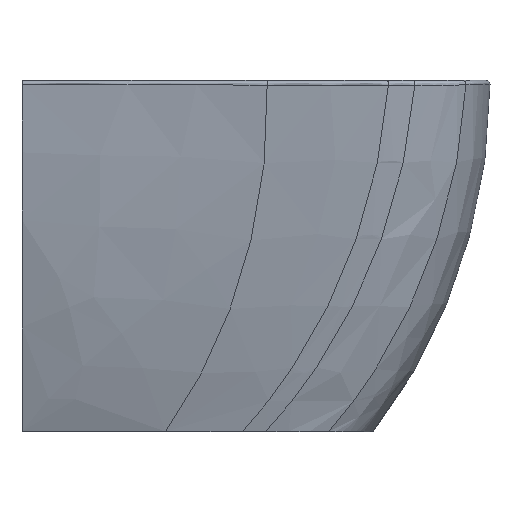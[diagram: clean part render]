
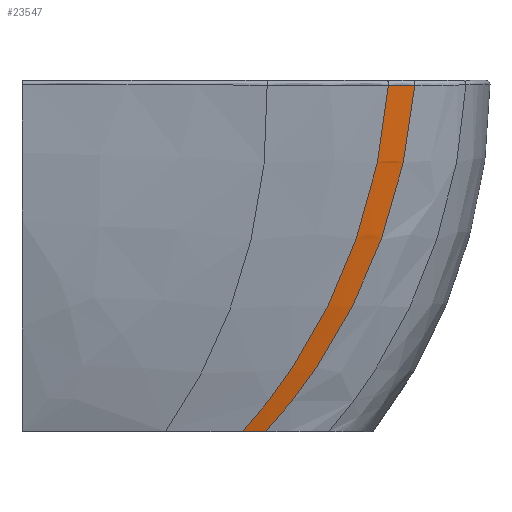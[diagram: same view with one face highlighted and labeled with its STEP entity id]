
A CAD part, left-side view. The second image highlights one B-rep face of the part: STEP entity #23547.
In plain terms, the highlighted free-form (B-spline) face has degree [5, 5] with [6, 6] control points.
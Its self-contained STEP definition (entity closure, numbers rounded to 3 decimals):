
#1465=CARTESIAN_POINT('Vertex',(-112.041,-291.187,-420.)) ;
#1469=CARTESIAN_POINT('Control Point',(-112.041,-291.187,-420.)) ;
#1470=CARTESIAN_POINT('Control Point',(-112.586,-285.648,-420.)) ;
#1471=CARTESIAN_POINT('Control Point',(-113.045,-280.112,-420.)) ;
#1472=CARTESIAN_POINT('Control Point',(-113.444,-274.584,-420.)) ;
#1473=CARTESIAN_POINT('Control Point',(-113.805,-269.06,-420.)) ;
#1474=CARTESIAN_POINT('Control Point',(-114.137,-263.534,-420.)) ;
#1475=CARTESIAN_POINT('Vertex',(-114.137,-263.534,-420.)) ;
#1605=CARTESIAN_POINT('Control Point',(-189.106,-438.005,-5.726)) ;
#1606=CARTESIAN_POINT('Control Point',(-176.886,-431.526,-96.143)) ;
#1607=CARTESIAN_POINT('Control Point',(-163.072,-409.88,-186.381)) ;
#1608=CARTESIAN_POINT('Control Point',(-147.679,-373.138,-276.153)) ;
#1609=CARTESIAN_POINT('Control Point',(-131.367,-324.357,-354.026)) ;
#1610=CARTESIAN_POINT('Control Point',(-114.137,-263.534,-420.)) ;
#1611=CARTESIAN_POINT('Vertex',(-189.106,-438.005,-5.726)) ;
#13839=CARTESIAN_POINT('Control Point',(-189.106,-438.005,-5.726)) ;
#13840=CARTESIAN_POINT('Control Point',(-189.017,-438.446,-5.726)) ;
#13841=CARTESIAN_POINT('Control Point',(-188.926,-438.89,-5.726)) ;
#13842=CARTESIAN_POINT('Control Point',(-188.832,-439.34,-5.727)) ;
#13843=CARTESIAN_POINT('Control Point',(-187.485,-445.711,-5.73)) ;
#13844=CARTESIAN_POINT('Control Point',(-185.913,-451.961,-5.731)) ;
#13845=CARTESIAN_POINT('Control Point',(-184.259,-457.677,-5.729)) ;
#13846=CARTESIAN_POINT('Control Point',(-182.39,-463.473,-5.725)) ;
#13847=CARTESIAN_POINT('Control Point',(-180.354,-469.169,-5.72)) ;
#13848=CARTESIAN_POINT('Control Point',(-180.287,-469.358,-5.72)) ;
#13849=CARTESIAN_POINT('Control Point',(-180.229,-469.518,-5.719)) ;
#13850=CARTESIAN_POINT('Control Point',(-180.171,-469.678,-5.719)) ;
#13851=CARTESIAN_POINT('Vertex',(-180.171,-469.678,-5.719)) ;
#23497=CARTESIAN_POINT('Control Point',(-114.137,-263.534,-420.)) ;
#23498=CARTESIAN_POINT('Control Point',(-131.585,-325.127,-353.191)) ;
#23499=CARTESIAN_POINT('Control Point',(-148.092,-374.372,-274.178)) ;
#23500=CARTESIAN_POINT('Control Point',(-163.656,-411.27,-182.964)) ;
#23501=CARTESIAN_POINT('Control Point',(-177.585,-432.608,-91.571)) ;
#23502=CARTESIAN_POINT('Control Point',(-189.878,-438.391,0.)) ;
#23503=CARTESIAN_POINT('Control Point',(-113.823,-268.753,-420.)) ;
#23504=CARTESIAN_POINT('Control Point',(-130.946,-330.651,-353.284)) ;
#23505=CARTESIAN_POINT('Control Point',(-147.183,-380.21,-274.309)) ;
#23506=CARTESIAN_POINT('Control Point',(-162.534,-417.43,-183.076)) ;
#23507=CARTESIAN_POINT('Control Point',(-176.308,-439.066,-91.64)) ;
#23508=CARTESIAN_POINT('Control Point',(-188.508,-445.121,0.)) ;
#23509=CARTESIAN_POINT('Control Point',(-113.474,-274.135,-420.)) ;
#23510=CARTESIAN_POINT('Control Point',(-130.241,-336.257,-353.349)) ;
#23511=CARTESIAN_POINT('Control Point',(-146.171,-386.046,-274.397)) ;
#23512=CARTESIAN_POINT('Control Point',(-161.265,-423.502,-183.148)) ;
#23513=CARTESIAN_POINT('Control Point',(-174.844,-445.356,-91.681)) ;
#23514=CARTESIAN_POINT('Control Point',(-186.908,-451.609,0.)) ;
#23515=CARTESIAN_POINT('Control Point',(-113.077,-279.711,-420.)) ;
#23516=CARTESIAN_POINT('Control Point',(-129.458,-341.984,-353.387)) ;
#23517=CARTESIAN_POINT('Control Point',(-145.049,-391.926,-274.447)) ;
#23518=CARTESIAN_POINT('Control Point',(-159.849,-429.538,-183.181)) ;
#23519=CARTESIAN_POINT('Control Point',(-173.192,-451.535,-91.699)) ;
#23520=CARTESIAN_POINT('Control Point',(-185.082,-457.919,0.)) ;
#23521=CARTESIAN_POINT('Control Point',(-112.608,-285.426,-420.)) ;
#23522=CARTESIAN_POINT('Control Point',(-128.586,-347.796,-353.406)) ;
#23523=CARTESIAN_POINT('Control Point',(-143.815,-397.834,-274.468)) ;
#23524=CARTESIAN_POINT('Control Point',(-158.297,-435.543,-183.188)) ;
#23525=CARTESIAN_POINT('Control Point',(-171.381,-457.629,-91.698)) ;
#23526=CARTESIAN_POINT('Control Point',(-183.071,-464.095,0.)) ;
#23527=CARTESIAN_POINT('Control Point',(-112.041,-291.187,-420.)) ;
#23528=CARTESIAN_POINT('Control Point',(-127.606,-353.613,-353.411)) ;
#23529=CARTESIAN_POINT('Control Point',(-142.462,-403.704,-274.469)) ;
#23530=CARTESIAN_POINT('Control Point',(-156.609,-441.464,-183.175)) ;
#23531=CARTESIAN_POINT('Control Point',(-169.418,-463.598,-91.685)) ;
#23532=CARTESIAN_POINT('Control Point',(-180.889,-470.108,0.)) ;
#23534=CARTESIAN_POINT('Control Point',(-180.171,-469.678,-5.719)) ;
#23535=CARTESIAN_POINT('Control Point',(-168.777,-462.478,-96.251)) ;
#23536=CARTESIAN_POINT('Control Point',(-156.08,-440.045,-186.586)) ;
#23537=CARTESIAN_POINT('Control Point',(-142.091,-402.453,-276.437)) ;
#23538=CARTESIAN_POINT('Control Point',(-127.412,-352.834,-354.242)) ;
#23539=CARTESIAN_POINT('Control Point',(-112.041,-291.187,-420.)) ;
#23542=ORIENTED_EDGE('',*,*,#1613,.T.) ;
#23543=ORIENTED_EDGE('',*,*,#1477,.F.) ;
#23544=ORIENTED_EDGE('',*,*,#23540,.F.) ;
#23545=ORIENTED_EDGE('',*,*,#13853,.F.) ;
#23547=ADVANCED_FACE('Raccordo su spigolo.25',(#23546),#23496,.T.) ;
#1468=B_SPLINE_CURVE_WITH_KNOTS('',5,(#1469,#1470,#1471,#1472,#1473,#1474),.UNSPECIFIED.,.F.,.U.,(6,6),(0.,39.026),.UNSPECIFIED.) ;
#1604=B_SPLINE_CURVE_WITH_KNOTS('',5,(#1605,#1606,#1607,#1608,#1609,#1610),.UNSPECIFIED.,.F.,.U.,(6,6),(-206.887,212.194),.UNSPECIFIED.) ;
#13838=B_SPLINE_CURVE_WITH_KNOTS('',5,(#13839,#13840,#13841,#13842,#13843,#13844,#13845,#13846,#13847,#13848,#13849,#13850),.UNSPECIFIED.,.F.,.U.,(6,3,3,6),(151.11,154.079,194.239,195.401),.UNSPECIFIED.) ;
#23533=B_SPLINE_CURVE_WITH_KNOTS('',5,(#23534,#23535,#23536,#23537,#23538,#23539),.UNSPECIFIED.,.F.,.U.,(6,6),(-206.899,212.194),.UNSPECIFIED.) ;
#23496=B_SPLINE_SURFACE_WITH_KNOTS('',5,5,((#23497,#23498,#23499,#23500,#23501,#23502),(#23503,#23504,#23505,#23506,#23507,#23508),(#23509,#23510,#23511,#23512,#23513,#23514),(#23515,#23516,#23517,#23518,#23519,#23520),(#23521,#23522,#23523,#23524,#23525,#23526),(#23527,#23528,#23529,#23530,#23531,#23532)),.UNSPECIFIED.,.F.,.F.,.U.,(6,6),(6,6),(0.,30.477),(0.,424.389),.UNSPECIFIED.) ;
#1477=EDGE_CURVE('',#1466,#1476,#1468,.T.) ;
#1613=EDGE_CURVE('',#1612,#1476,#1604,.T.) ;
#13853=EDGE_CURVE('',#1612,#13852,#13838,.T.) ;
#23540=EDGE_CURVE('',#13852,#1466,#23533,.T.) ;
#23541=EDGE_LOOP('',(#23542,#23543,#23544,#23545)) ;
#23546=FACE_OUTER_BOUND('',#23541,.T.) ;
#1466=VERTEX_POINT('',#1465) ;
#1476=VERTEX_POINT('',#1475) ;
#1612=VERTEX_POINT('',#1611) ;
#13852=VERTEX_POINT('',#13851) ;
